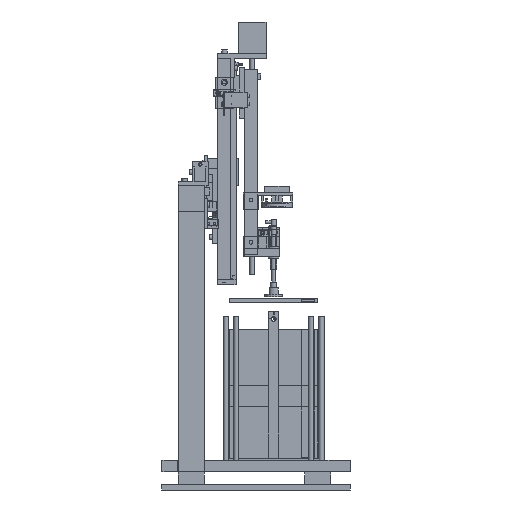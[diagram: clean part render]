
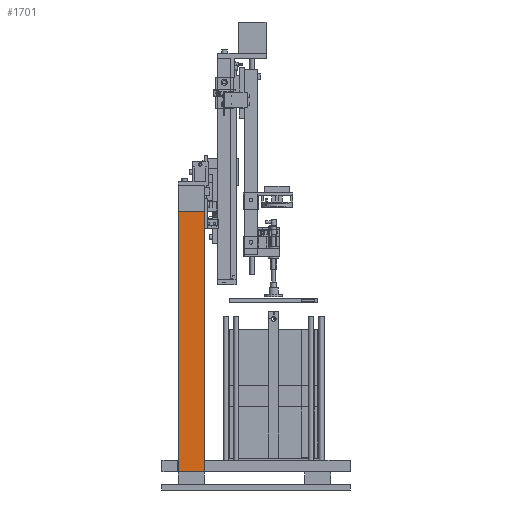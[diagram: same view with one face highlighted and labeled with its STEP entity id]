
A CAD part, left-side view. The second image highlights one B-rep face of the part: STEP entity #1701.
In plain terms, the highlighted planar face has unit normal (-1, 0, 0).
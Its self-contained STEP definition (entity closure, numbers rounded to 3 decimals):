
#1701 = ADVANCED_FACE('',(#1702),#1716,.F.);
#1702 = FACE_BOUND('',#1703,.F.);
#1703 = EDGE_LOOP('',(#1704,#1739,#1767,#1795));
#1704 = ORIENTED_EDGE('',*,*,#1705,.F.);
#1705 = EDGE_CURVE('',#1706,#1708,#1710,.T.);
#1706 = VERTEX_POINT('',#1707);
#1707 = CARTESIAN_POINT('',(-68.,107.,-21.));
#1708 = VERTEX_POINT('',#1709);
#1709 = CARTESIAN_POINT('',(-68.,107.,380.));
#1710 = SURFACE_CURVE('',#1711,(#1715,#1727),.PCURVE_S1.);
#1711 = LINE('',#1712,#1713);
#1712 = CARTESIAN_POINT('',(-68.,107.,-21.));
#1713 = VECTOR('',#1714,1.);
#1714 = DIRECTION('',(0.,0.,1.));
#1715 = PCURVE('',#1716,#1721);
#1716 = PLANE('',#1717);
#1717 = AXIS2_PLACEMENT_3D('',#1718,#1719,#1720);
#1718 = CARTESIAN_POINT('',(-68.,107.,-21.));
#1719 = DIRECTION('',(1.,0.,0.));
#1720 = DIRECTION('',(0.,0.,1.));
#1721 = DEFINITIONAL_REPRESENTATION('',(#1722),#1726);
#1722 = LINE('',#1723,#1724);
#1723 = CARTESIAN_POINT('',(0.,0.));
#1724 = VECTOR('',#1725,1.);
#1725 = DIRECTION('',(1.,0.));
#1726 = ( GEOMETRIC_REPRESENTATION_CONTEXT(2) 
PARAMETRIC_REPRESENTATION_CONTEXT() REPRESENTATION_CONTEXT('2D SPACE',''
  ) );
#1727 = PCURVE('',#1728,#1733);
#1728 = PLANE('',#1729);
#1729 = AXIS2_PLACEMENT_3D('',#1730,#1731,#1732);
#1730 = CARTESIAN_POINT('',(-68.,107.,-21.));
#1731 = DIRECTION('',(0.,1.,0.));
#1732 = DIRECTION('',(0.,0.,1.));
#1733 = DEFINITIONAL_REPRESENTATION('',(#1734),#1738);
#1734 = LINE('',#1735,#1736);
#1735 = CARTESIAN_POINT('',(0.,0.));
#1736 = VECTOR('',#1737,1.);
#1737 = DIRECTION('',(1.,0.));
#1738 = ( GEOMETRIC_REPRESENTATION_CONTEXT(2) 
PARAMETRIC_REPRESENTATION_CONTEXT() REPRESENTATION_CONTEXT('2D SPACE',''
  ) );
#1739 = ORIENTED_EDGE('',*,*,#1740,.T.);
#1740 = EDGE_CURVE('',#1706,#1741,#1743,.T.);
#1741 = VERTEX_POINT('',#1742);
#1742 = CARTESIAN_POINT('',(-68.,147.,-21.));
#1743 = SURFACE_CURVE('',#1744,(#1748,#1755),.PCURVE_S1.);
#1744 = LINE('',#1745,#1746);
#1745 = CARTESIAN_POINT('',(-68.,107.,-21.));
#1746 = VECTOR('',#1747,1.);
#1747 = DIRECTION('',(0.,1.,0.));
#1748 = PCURVE('',#1716,#1749);
#1749 = DEFINITIONAL_REPRESENTATION('',(#1750),#1754);
#1750 = LINE('',#1751,#1752);
#1751 = CARTESIAN_POINT('',(0.,0.));
#1752 = VECTOR('',#1753,1.);
#1753 = DIRECTION('',(0.,-1.));
#1754 = ( GEOMETRIC_REPRESENTATION_CONTEXT(2) 
PARAMETRIC_REPRESENTATION_CONTEXT() REPRESENTATION_CONTEXT('2D SPACE',''
  ) );
#1755 = PCURVE('',#1756,#1761);
#1756 = PLANE('',#1757);
#1757 = AXIS2_PLACEMENT_3D('',#1758,#1759,#1760);
#1758 = CARTESIAN_POINT('',(-68.,107.,-21.));
#1759 = DIRECTION('',(0.,0.,1.));
#1760 = DIRECTION('',(1.,0.,0.));
#1761 = DEFINITIONAL_REPRESENTATION('',(#1762),#1766);
#1762 = LINE('',#1763,#1764);
#1763 = CARTESIAN_POINT('',(0.,0.));
#1764 = VECTOR('',#1765,1.);
#1765 = DIRECTION('',(0.,1.));
#1766 = ( GEOMETRIC_REPRESENTATION_CONTEXT(2) 
PARAMETRIC_REPRESENTATION_CONTEXT() REPRESENTATION_CONTEXT('2D SPACE',''
  ) );
#1767 = ORIENTED_EDGE('',*,*,#1768,.T.);
#1768 = EDGE_CURVE('',#1741,#1769,#1771,.T.);
#1769 = VERTEX_POINT('',#1770);
#1770 = CARTESIAN_POINT('',(-68.,147.,380.));
#1771 = SURFACE_CURVE('',#1772,(#1776,#1783),.PCURVE_S1.);
#1772 = LINE('',#1773,#1774);
#1773 = CARTESIAN_POINT('',(-68.,147.,-21.));
#1774 = VECTOR('',#1775,1.);
#1775 = DIRECTION('',(0.,0.,1.));
#1776 = PCURVE('',#1716,#1777);
#1777 = DEFINITIONAL_REPRESENTATION('',(#1778),#1782);
#1778 = LINE('',#1779,#1780);
#1779 = CARTESIAN_POINT('',(0.,-40.));
#1780 = VECTOR('',#1781,1.);
#1781 = DIRECTION('',(1.,0.));
#1782 = ( GEOMETRIC_REPRESENTATION_CONTEXT(2) 
PARAMETRIC_REPRESENTATION_CONTEXT() REPRESENTATION_CONTEXT('2D SPACE',''
  ) );
#1783 = PCURVE('',#1784,#1789);
#1784 = PLANE('',#1785);
#1785 = AXIS2_PLACEMENT_3D('',#1786,#1787,#1788);
#1786 = CARTESIAN_POINT('',(-68.,147.,-21.));
#1787 = DIRECTION('',(0.,1.,0.));
#1788 = DIRECTION('',(0.,0.,1.));
#1789 = DEFINITIONAL_REPRESENTATION('',(#1790),#1794);
#1790 = LINE('',#1791,#1792);
#1791 = CARTESIAN_POINT('',(0.,0.));
#1792 = VECTOR('',#1793,1.);
#1793 = DIRECTION('',(1.,0.));
#1794 = ( GEOMETRIC_REPRESENTATION_CONTEXT(2) 
PARAMETRIC_REPRESENTATION_CONTEXT() REPRESENTATION_CONTEXT('2D SPACE',''
  ) );
#1795 = ORIENTED_EDGE('',*,*,#1796,.F.);
#1796 = EDGE_CURVE('',#1708,#1769,#1797,.T.);
#1797 = SURFACE_CURVE('',#1798,(#1802,#1809),.PCURVE_S1.);
#1798 = LINE('',#1799,#1800);
#1799 = CARTESIAN_POINT('',(-68.,107.,380.));
#1800 = VECTOR('',#1801,1.);
#1801 = DIRECTION('',(0.,1.,0.));
#1802 = PCURVE('',#1716,#1803);
#1803 = DEFINITIONAL_REPRESENTATION('',(#1804),#1808);
#1804 = LINE('',#1805,#1806);
#1805 = CARTESIAN_POINT('',(401.,0.));
#1806 = VECTOR('',#1807,1.);
#1807 = DIRECTION('',(0.,-1.));
#1808 = ( GEOMETRIC_REPRESENTATION_CONTEXT(2) 
PARAMETRIC_REPRESENTATION_CONTEXT() REPRESENTATION_CONTEXT('2D SPACE',''
  ) );
#1809 = PCURVE('',#1810,#1815);
#1810 = PLANE('',#1811);
#1811 = AXIS2_PLACEMENT_3D('',#1812,#1813,#1814);
#1812 = CARTESIAN_POINT('',(-68.,107.,380.));
#1813 = DIRECTION('',(0.,0.,1.));
#1814 = DIRECTION('',(1.,0.,0.));
#1815 = DEFINITIONAL_REPRESENTATION('',(#1816),#1820);
#1816 = LINE('',#1817,#1818);
#1817 = CARTESIAN_POINT('',(0.,0.));
#1818 = VECTOR('',#1819,1.);
#1819 = DIRECTION('',(0.,1.));
#1820 = ( GEOMETRIC_REPRESENTATION_CONTEXT(2) 
PARAMETRIC_REPRESENTATION_CONTEXT() REPRESENTATION_CONTEXT('2D SPACE',''
  ) );
